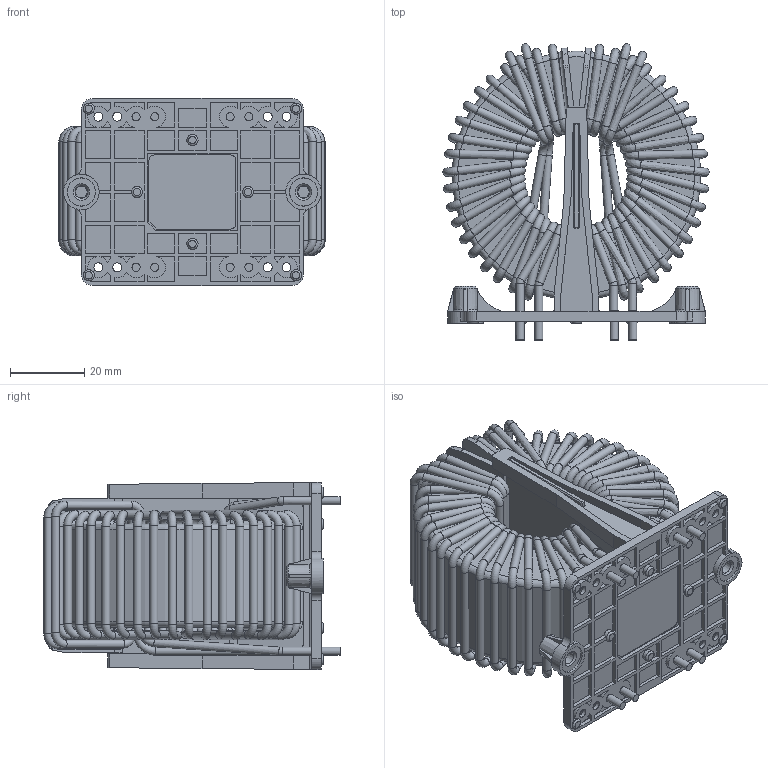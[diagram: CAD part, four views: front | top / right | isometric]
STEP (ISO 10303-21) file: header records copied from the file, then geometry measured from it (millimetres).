
FILE_DESCRIPTION((''),'2;1');
FILE_NAME('K:\Development\Projects\RB\Angel_standard choke series 2011\70_Realization_Revision\702_MechanicalDesign\Drawing for Harald\RB8522-36-1M5.stp','2012-10-30T11:06:28',('Fiona.chen'),(''),'Autodesk Inventor 2010','Autodesk Inventor 2010','');
FILE_SCHEMA(('AUTOMOTIVE_DESIGN { 1 0 10303 214 1 1 1 1 }'));
Length unit declared in the file: millimetre
Products named in the file (1): RB8522-36-1M5 for customer_包覆面提取_3
Bounding box: 71.92 x 79.98 x 50.5 mm (x, y, z)
Surface area: 63007.6 mm2 (no closed solid volume)
Topology: 0 solids, 1 shells, 1143 faces, 3276 edges, 2070 vertices
Faces by surface type: bspline 380, plane 351, cylinder 242, torus 130, cone 40
Full cylindrical faces by diameter (mm): 2.2 x86, 2.4 x8, 3 x8, 9.6 x2
Entity records: 47894 total; most frequent: CARTESIAN_POINT 21129, ORIENTED_EDGE 5416, DIRECTION 4689, EDGE_CURVE 2708, VERTEX_POINT 1892, AXIS2_PLACEMENT_3D 1743, EDGE_LOOP 1592, VECTOR 1203
